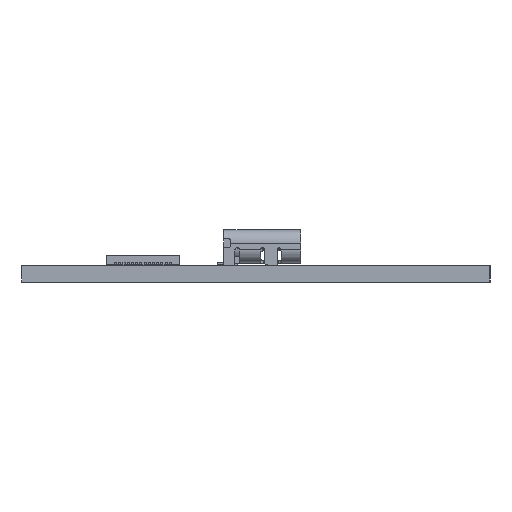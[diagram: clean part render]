
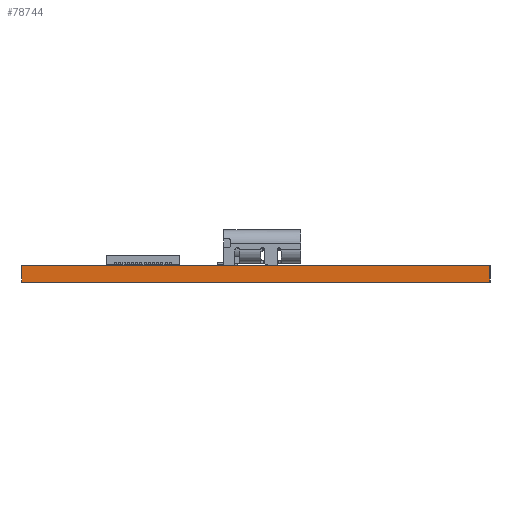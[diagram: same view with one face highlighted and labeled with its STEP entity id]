
A CAD part, left-side view. The second image highlights one B-rep face of the part: STEP entity #78744.
In plain terms, the highlighted planar face has unit normal (-1, 0, 0).
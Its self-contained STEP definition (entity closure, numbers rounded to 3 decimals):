
#74154 = PLANE('',#74155);
#74155 = AXIS2_PLACEMENT_3D('',#74156,#74157,#74158);
#74156 = CARTESIAN_POINT('',(97.409,-65.439,1.6));
#74157 = DIRECTION('',(-0.,-0.,-1.));
#74158 = DIRECTION('',(-1.,0.,0.));
#74208 = PLANE('',#74209);
#74209 = AXIS2_PLACEMENT_3D('',#74210,#74211,#74212);
#74210 = CARTESIAN_POINT('',(97.409,-65.439,0.));
#74211 = DIRECTION('',(-0.,-0.,-1.));
#74212 = DIRECTION('',(-1.,0.,0.));
#74241 = PLANE('',#74242);
#74242 = AXIS2_PLACEMENT_3D('',#74243,#74244,#74245);
#74243 = CARTESIAN_POINT('',(66.04,-43.18,0.));
#74244 = DIRECTION('',(0.,1.,0.));
#74245 = DIRECTION('',(1.,0.,0.));
#74429 = VERTEX_POINT('',#74430);
#74430 = CARTESIAN_POINT('',(66.04,-87.63,0.));
#74444 = PLANE('',#74445);
#74445 = AXIS2_PLACEMENT_3D('',#74446,#74447,#74448);
#74446 = CARTESIAN_POINT('',(90.17,-87.63,0.));
#74447 = DIRECTION('',(0.,-1.,0.));
#74448 = DIRECTION('',(-1.,0.,0.));
#74456 = EDGE_CURVE('',#74429,#74457,#74459,.T.);
#74457 = VERTEX_POINT('',#74458);
#74458 = CARTESIAN_POINT('',(66.04,-43.18,0.));
#74459 = SURFACE_CURVE('',#74460,(#74464,#74471),.PCURVE_S1.);
#74460 = LINE('',#74461,#74462);
#74461 = CARTESIAN_POINT('',(66.04,-87.63,0.));
#74462 = VECTOR('',#74463,1.);
#74463 = DIRECTION('',(0.,1.,0.));
#74464 = PCURVE('',#74208,#74465);
#74465 = DEFINITIONAL_REPRESENTATION('',(#74466),#74470);
#74466 = LINE('',#74467,#74468);
#74467 = CARTESIAN_POINT('',(31.369,-22.191));
#74468 = VECTOR('',#74469,1.);
#74469 = DIRECTION('',(0.,1.));
#74470 = ( GEOMETRIC_REPRESENTATION_CONTEXT(2) 
PARAMETRIC_REPRESENTATION_CONTEXT() REPRESENTATION_CONTEXT('2D SPACE',''
  ) );
#74471 = PCURVE('',#74472,#74477);
#74472 = PLANE('',#74473);
#74473 = AXIS2_PLACEMENT_3D('',#74474,#74475,#74476);
#74474 = CARTESIAN_POINT('',(66.04,-87.63,0.));
#74475 = DIRECTION('',(-1.,0.,0.));
#74476 = DIRECTION('',(0.,1.,0.));
#74477 = DEFINITIONAL_REPRESENTATION('',(#74478),#74482);
#74478 = LINE('',#74479,#74480);
#74479 = CARTESIAN_POINT('',(0.,0.));
#74480 = VECTOR('',#74481,1.);
#74481 = DIRECTION('',(1.,0.));
#74482 = ( GEOMETRIC_REPRESENTATION_CONTEXT(2) 
PARAMETRIC_REPRESENTATION_CONTEXT() REPRESENTATION_CONTEXT('2D SPACE',''
  ) );
#76876 = VERTEX_POINT('',#76877);
#76877 = CARTESIAN_POINT('',(66.04,-87.63,1.6));
#76898 = EDGE_CURVE('',#76876,#76899,#76901,.T.);
#76899 = VERTEX_POINT('',#76900);
#76900 = CARTESIAN_POINT('',(66.04,-43.18,1.6));
#76901 = SURFACE_CURVE('',#76902,(#76906,#76913),.PCURVE_S1.);
#76902 = LINE('',#76903,#76904);
#76903 = CARTESIAN_POINT('',(66.04,-87.63,1.6));
#76904 = VECTOR('',#76905,1.);
#76905 = DIRECTION('',(0.,1.,0.));
#76906 = PCURVE('',#74154,#76907);
#76907 = DEFINITIONAL_REPRESENTATION('',(#76908),#76912);
#76908 = LINE('',#76909,#76910);
#76909 = CARTESIAN_POINT('',(31.369,-22.191));
#76910 = VECTOR('',#76911,1.);
#76911 = DIRECTION('',(0.,1.));
#76912 = ( GEOMETRIC_REPRESENTATION_CONTEXT(2) 
PARAMETRIC_REPRESENTATION_CONTEXT() REPRESENTATION_CONTEXT('2D SPACE',''
  ) );
#76913 = PCURVE('',#74472,#76914);
#76914 = DEFINITIONAL_REPRESENTATION('',(#76915),#76919);
#76915 = LINE('',#76916,#76917);
#76916 = CARTESIAN_POINT('',(0.,-1.6));
#76917 = VECTOR('',#76918,1.);
#76918 = DIRECTION('',(1.,0.));
#76919 = ( GEOMETRIC_REPRESENTATION_CONTEXT(2) 
PARAMETRIC_REPRESENTATION_CONTEXT() REPRESENTATION_CONTEXT('2D SPACE',''
  ) );
#78694 = EDGE_CURVE('',#74457,#76899,#78695,.T.);
#78695 = SURFACE_CURVE('',#78696,(#78700,#78707),.PCURVE_S1.);
#78696 = LINE('',#78697,#78698);
#78697 = CARTESIAN_POINT('',(66.04,-43.18,0.));
#78698 = VECTOR('',#78699,1.);
#78699 = DIRECTION('',(0.,0.,1.));
#78700 = PCURVE('',#74241,#78701);
#78701 = DEFINITIONAL_REPRESENTATION('',(#78702),#78706);
#78702 = LINE('',#78703,#78704);
#78703 = CARTESIAN_POINT('',(0.,0.));
#78704 = VECTOR('',#78705,1.);
#78705 = DIRECTION('',(0.,-1.));
#78706 = ( GEOMETRIC_REPRESENTATION_CONTEXT(2) 
PARAMETRIC_REPRESENTATION_CONTEXT() REPRESENTATION_CONTEXT('2D SPACE',''
  ) );
#78707 = PCURVE('',#74472,#78708);
#78708 = DEFINITIONAL_REPRESENTATION('',(#78709),#78713);
#78709 = LINE('',#78710,#78711);
#78710 = CARTESIAN_POINT('',(44.45,0.));
#78711 = VECTOR('',#78712,1.);
#78712 = DIRECTION('',(0.,-1.));
#78713 = ( GEOMETRIC_REPRESENTATION_CONTEXT(2) 
PARAMETRIC_REPRESENTATION_CONTEXT() REPRESENTATION_CONTEXT('2D SPACE',''
  ) );
#78744 = ADVANCED_FACE('',(#78745),#74472,.T.);
#78745 = FACE_BOUND('',#78746,.T.);
#78746 = EDGE_LOOP('',(#78747,#78768,#78769,#78770));
#78747 = ORIENTED_EDGE('',*,*,#78748,.T.);
#78748 = EDGE_CURVE('',#74429,#76876,#78749,.T.);
#78749 = SURFACE_CURVE('',#78750,(#78754,#78761),.PCURVE_S1.);
#78750 = LINE('',#78751,#78752);
#78751 = CARTESIAN_POINT('',(66.04,-87.63,0.));
#78752 = VECTOR('',#78753,1.);
#78753 = DIRECTION('',(0.,0.,1.));
#78754 = PCURVE('',#74472,#78755);
#78755 = DEFINITIONAL_REPRESENTATION('',(#78756),#78760);
#78756 = LINE('',#78757,#78758);
#78757 = CARTESIAN_POINT('',(0.,0.));
#78758 = VECTOR('',#78759,1.);
#78759 = DIRECTION('',(0.,-1.));
#78760 = ( GEOMETRIC_REPRESENTATION_CONTEXT(2) 
PARAMETRIC_REPRESENTATION_CONTEXT() REPRESENTATION_CONTEXT('2D SPACE',''
  ) );
#78761 = PCURVE('',#74444,#78762);
#78762 = DEFINITIONAL_REPRESENTATION('',(#78763),#78767);
#78763 = LINE('',#78764,#78765);
#78764 = CARTESIAN_POINT('',(24.13,0.));
#78765 = VECTOR('',#78766,1.);
#78766 = DIRECTION('',(0.,-1.));
#78767 = ( GEOMETRIC_REPRESENTATION_CONTEXT(2) 
PARAMETRIC_REPRESENTATION_CONTEXT() REPRESENTATION_CONTEXT('2D SPACE',''
  ) );
#78768 = ORIENTED_EDGE('',*,*,#76898,.T.);
#78769 = ORIENTED_EDGE('',*,*,#78694,.F.);
#78770 = ORIENTED_EDGE('',*,*,#74456,.F.);
